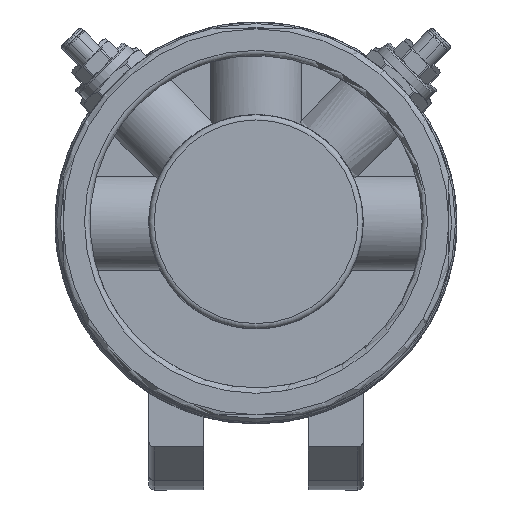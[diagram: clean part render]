
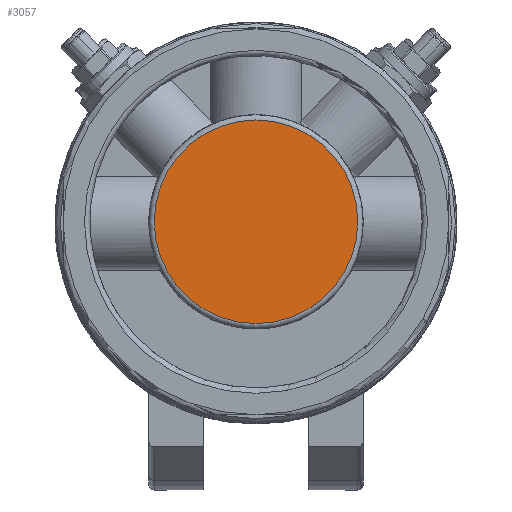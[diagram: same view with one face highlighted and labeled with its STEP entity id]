
A CAD part, top view. The second image highlights one B-rep face of the part: STEP entity #3057.
In plain terms, the highlighted planar face has unit normal (0, 0, 1).
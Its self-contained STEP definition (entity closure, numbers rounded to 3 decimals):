
#2746=CARTESIAN_POINT('',(19.,0.,145.5));
#2747=VERTEX_POINT('',#2746);
#2748=CARTESIAN_POINT('',(0.,0.,145.5));
#2749=DIRECTION('',(0.0,0.0,-1.0));
#2750=DIRECTION('',(-1.0,0.0,0.0));
#2751=AXIS2_PLACEMENT_3D('',#2748,#2749,#2750);
#2752=CIRCLE('',#2751,19.0);
#2753=EDGE_CURVE('',#2747,#2747,#2752,.T.);
#3049=CARTESIAN_POINT('',(0.,0.,145.5));
#3050=DIRECTION('',(0.0,0.0,-1.0));
#3051=DIRECTION('',(-1.0,0.0,0.0));
#3052=AXIS2_PLACEMENT_3D('',#3049,#3050,#3051);
#3053=PLANE('',#3052);
#3054=ORIENTED_EDGE('',*,*,#2753,.F.);
#3055=EDGE_LOOP('',(#3054));
#3056=FACE_OUTER_BOUND('',#3055,.T.);
#3057=ADVANCED_FACE('',(#3056),#3053,.F.);
